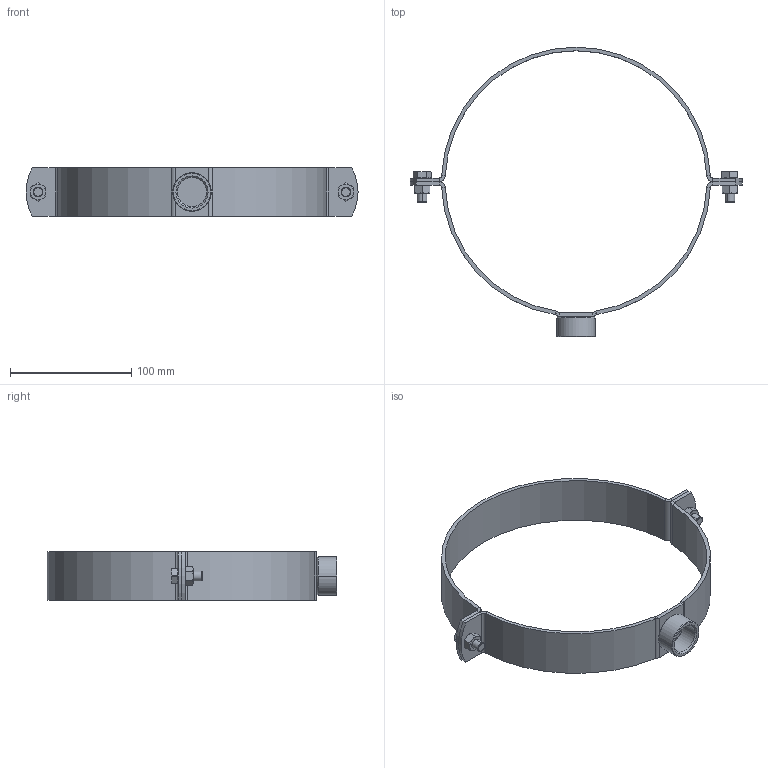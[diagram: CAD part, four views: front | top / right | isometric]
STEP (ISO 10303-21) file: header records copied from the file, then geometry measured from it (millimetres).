
FILE_DESCRIPTION (( 'STEP AP203' ), '1' );
FILE_NAME ('51.842.STEP', '2019-11-21T16:17:47', ( '' ), ( '' ), 'SwSTEP 2.0', 'SolidWorks 2019', '' );
FILE_SCHEMA (( 'CONFIG_CONTROL_DESIGN' ));
Length unit declared in the file: millimetre
Products named in the file (7): 51.842; 1000003377_13 - Gr. 219-222 - H-17110.013; 1000003263_E-10254.002-Inox V4A (1.4404); 1000003381_13 - Gr. 219-222 - H-17111.613; 1000003366_13 - Gr. 219-222 - H-17109.013; 1000003484; 1000003486
Assembly tree (8 placements, depth 3):
  51.842
    1000003381_13 - Gr. 219-222 - H-17111.613
      1000003377_13 - Gr. 219-222 - H-17110.013
      1000003263_E-10254.002-Inox V4A (1.4404)
    1000003366_13 - Gr. 219-222 - H-17109.013
    1000003484  x2
    1000003486  x2
Bounding box: 274 x 239 x 40 mm (x, y, z)
Volume: 103296.7 mm3; surface area: 74053.6 mm2
Topology: 7 solids, 7 shells, 214 faces, 462 edges, 264 vertices
Faces by surface type: plane 90, cylinder 62, cone 62
Entity records: 4974 total; most frequent: CARTESIAN_POINT 861, DIRECTION 757, ORIENTED_EDGE 650, EDGE_CURVE 325, AXIS2_PLACEMENT_3D 304, VERTEX_POINT 184, EDGE_LOOP 165, ADVANCED_FACE 152
